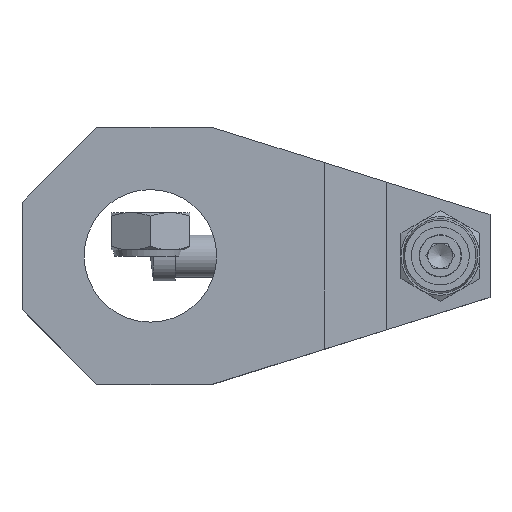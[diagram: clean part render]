
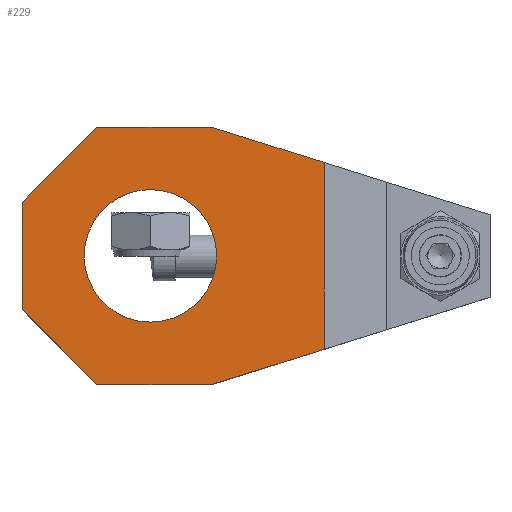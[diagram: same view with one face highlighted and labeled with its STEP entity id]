
A CAD part, top view. The second image highlights one B-rep face of the part: STEP entity #229.
In plain terms, the highlighted planar face has unit normal (0, 0, 1).
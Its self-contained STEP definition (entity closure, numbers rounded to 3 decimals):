
#229 = ADVANCED_FACE( '', ( #299, #300 ), #301, .T. );
#299 = FACE_BOUND( '', #443, .T. );
#300 = FACE_OUTER_BOUND( '', #444, .T. );
#301 = PLANE( '', #445 );
#443 = EDGE_LOOP( '', ( #623 ) );
#444 = EDGE_LOOP( '', ( #624, #625, #626, #627, #628, #629, #630, #631 ) );
#445 = AXIS2_PLACEMENT_3D( '', #632, #633, #634 );
#623 = ORIENTED_EDGE( '', *, *, #1021, .T. );
#624 = ORIENTED_EDGE( '', *, *, #1017, .F. );
#625 = ORIENTED_EDGE( '', *, *, #1020, .T. );
#626 = ORIENTED_EDGE( '', *, *, #1022, .F. );
#627 = ORIENTED_EDGE( '', *, *, #1008, .T. );
#628 = ORIENTED_EDGE( '', *, *, #1015, .T. );
#629 = ORIENTED_EDGE( '', *, *, #1010, .F. );
#630 = ORIENTED_EDGE( '', *, *, #1023, .T. );
#631 = ORIENTED_EDGE( '', *, *, #1024, .F. );
#632 = CARTESIAN_POINT( '', ( -31., -31., 35. ) );
#633 = DIRECTION( '', ( 0., 0., 1. ) );
#634 = DIRECTION( '', ( 1., 0., 0. ) );
#1008 = EDGE_CURVE( '', #1140, #1138, #1141, .T. );
#1010 = EDGE_CURVE( '', #1143, #1144, #1145, .T. );
#1015 = EDGE_CURVE( '', #1138, #1144, #1152, .T. );
#1017 = EDGE_CURVE( '', #1153, #1155, #1156, .T. );
#1020 = EDGE_CURVE( '', #1153, #1158, #1160, .F. );
#1021 = EDGE_CURVE( '', #1161, #1161, #1162, .T. );
#1022 = EDGE_CURVE( '', #1140, #1158, #1163, .T. );
#1023 = EDGE_CURVE( '', #1143, #1164, #1165, .T. );
#1024 = EDGE_CURVE( '', #1155, #1164, #1166, .T. );
#1138 = VERTEX_POINT( '', #1346 );
#1140 = VERTEX_POINT( '', #1349 );
#1141 = LINE( '', #1350, #1351 );
#1143 = VERTEX_POINT( '', #1354 );
#1144 = VERTEX_POINT( '', #1355 );
#1145 = LINE( '', #1356, #1357 );
#1152 = LINE( '', #1368, #1369 );
#1153 = VERTEX_POINT( '', #1370 );
#1155 = VERTEX_POINT( '', #1373 );
#1156 = LINE( '', #1374, #1375 );
#1158 = VERTEX_POINT( '', #1378 );
#1160 = LINE( '', #1381, #1382 );
#1161 = VERTEX_POINT( '', #1383 );
#1162 = CIRCLE( '', #1384, 16. );
#1163 = LINE( '', #1385, #1386 );
#1164 = VERTEX_POINT( '', #1387 );
#1165 = LINE( '', #1388, #1389 );
#1166 = LINE( '', #1390, #1391 );
#1346 = CARTESIAN_POINT( '', ( -13., -31., 35. ) );
#1349 = CARTESIAN_POINT( '', ( -31., -13., 35. ) );
#1350 = CARTESIAN_POINT( '', ( -22., -22., 35. ) );
#1351 = VECTOR( '', #1737, 1000. );
#1354 = CARTESIAN_POINT( '', ( 42., -22.537, 35. ) );
#1355 = CARTESIAN_POINT( '', ( 15., -31., 35. ) );
#1356 = CARTESIAN_POINT( '', ( -26.885, -44.128, 35. ) );
#1357 = VECTOR( '', #1739, 1000. );
#1368 = CARTESIAN_POINT( '', ( -31., -31., 35. ) );
#1369 = VECTOR( '', #1744, 1000. );
#1370 = CARTESIAN_POINT( '', ( -13., 31., 35. ) );
#1373 = CARTESIAN_POINT( '', ( 15., 31., 35. ) );
#1374 = CARTESIAN_POINT( '', ( -31., 31., 35. ) );
#1375 = VECTOR( '', #1746, 1000. );
#1378 = CARTESIAN_POINT( '', ( -31., 13., 35. ) );
#1381 = CARTESIAN_POINT( '', ( -53., -9., 35. ) );
#1382 = VECTOR( '', #1749, 1000. );
#1383 = CARTESIAN_POINT( '', ( -16., 0., 35. ) );
#1384 = AXIS2_PLACEMENT_3D( '', #1750, #1751, #1752 );
#1385 = CARTESIAN_POINT( '', ( -31., -31., 35. ) );
#1386 = VECTOR( '', #1753, 1000. );
#1387 = CARTESIAN_POINT( '', ( 42., 22.537, 35. ) );
#1388 = CARTESIAN_POINT( '', ( 42., -31., 35. ) );
#1389 = VECTOR( '', #1754, 1000. );
#1390 = CARTESIAN_POINT( '', ( -9.191, 38.582, 35. ) );
#1391 = VECTOR( '', #1755, 1000. );
#1737 = DIRECTION( '', ( 0.707, -0.707, 0. ) );
#1739 = DIRECTION( '', ( -0.954, -0.299, 0. ) );
#1744 = DIRECTION( '', ( 1., 0., 0. ) );
#1746 = DIRECTION( '', ( 1., 0., 0. ) );
#1749 = DIRECTION( '', ( 0.707, 0.707, 0. ) );
#1750 = CARTESIAN_POINT( '', ( 0., 0., 35. ) );
#1751 = DIRECTION( '', ( 0., 0., -1. ) );
#1752 = DIRECTION( '', ( -1., 0., 0. ) );
#1753 = DIRECTION( '', ( 0., 1., 0. ) );
#1754 = DIRECTION( '', ( 0., 1., 0. ) );
#1755 = DIRECTION( '', ( 0.954, -0.299, 0. ) );
